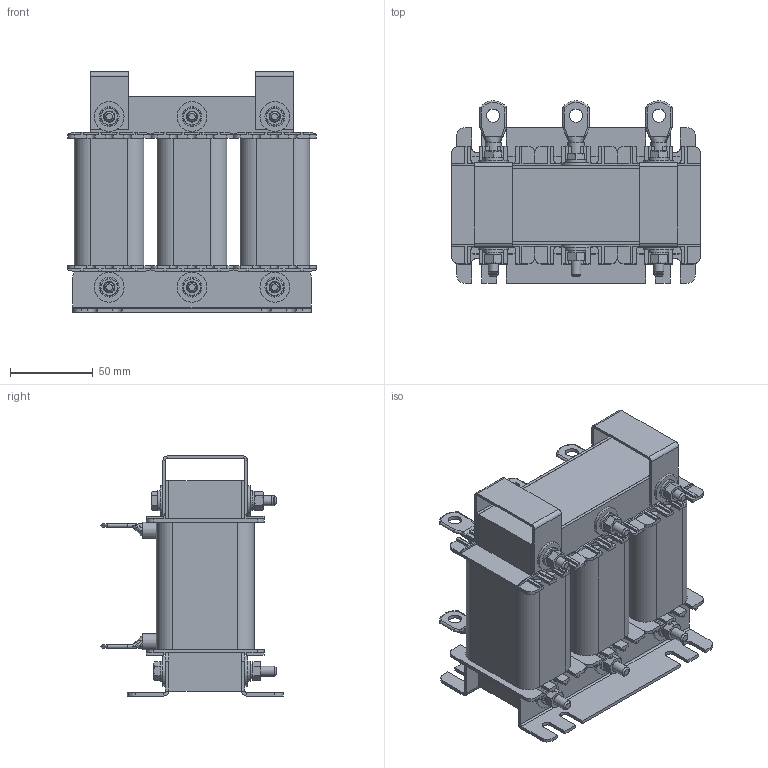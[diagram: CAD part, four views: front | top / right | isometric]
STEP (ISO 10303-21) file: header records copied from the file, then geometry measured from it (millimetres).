
FILE_DESCRIPTION(('STEP AP203'), '1');
FILE_NAME('Ñåòåâîé äðîññåëü _ ISF-7.5_20.5-4', '', ('UNSPECIFIED'), ('UNSPECIFIED'), 'C3D Converter', 'C3D Toolkit', '');
FILE_SCHEMA(('CONFIG_CONTROL_DESIGN'));
Length unit declared in the file: millimetre
Products named in the file (18): ISF-7.5_20.5-4; DIN 125 (A); ГОСТ 15591-70; DIN 127 (A); DIN 934
Assembly tree (69 placements, depth 3):
  ISF-7.5_20.5-4
    ISF-7.5_20.5-4
    ISF-7.5_20.5-4  x2
    ISF-7.5_20.5-4  x6
    ISF-7.5_20.5-4  x3
    ISF-7.5_20.5-4  x2
    (unnamed)  x12
      (unnamed)
    DIN 125 (A)  x12
      (unnamed)
    ГОСТ 15591-70  x6
      (unnamed)
    DIN 127 (A)  x6
      (unnamed)
    DIN 934  x6
      (unnamed)
    ISF-7.5_20.5-4  x2
    (unnamed)  x6
Bounding box: 150 x 109.97 x 145 mm (x, y, z)
Volume: 914896.6 mm3; surface area: 288680.6 mm2
Topology: 71 solids, 71 shells, 1336 faces, 3288 edges, 2070 vertices
Faces by surface type: plane 884, cylinder 254, cone 102, bspline 84, torus 12
Full cylindrical faces by diameter (mm): 4.917 x6, 6 x37, 6.4 x24, 6.6 x3, 8 x12, 8.8 x6, 9.8 x6, 12 x12, 18 x12
Entity records: 13766 total; most frequent: CARTESIAN_POINT 4175, DIRECTION 1453, ORIENTED_EDGE 1370, EDGE_CURVE 685, AXIS2_PLACEMENT_3D 499, VERTEX_POINT 460, LINE 455, VECTOR 455
